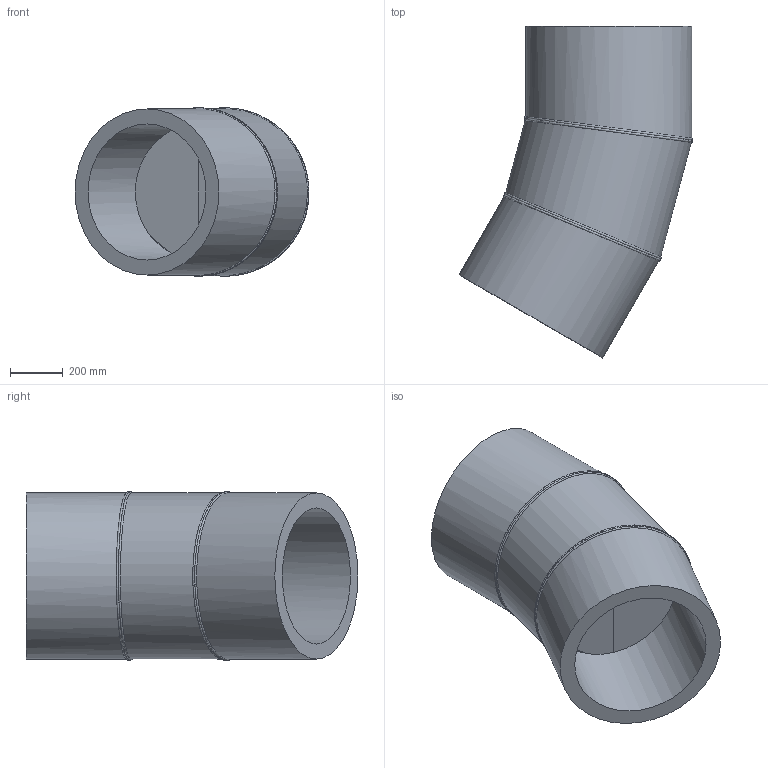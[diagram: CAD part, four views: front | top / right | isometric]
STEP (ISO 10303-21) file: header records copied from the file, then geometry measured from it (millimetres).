
FILE_DESCRIPTION(/* description */ ('Unknown'),/* implementation_level */ '2;1');
FILE_NAME(/* name */ 'Curva 30° a settore DE630 SDR11',/* time_stamp */ '2022-07-26T08:59:07+02:00',/* author */ ('Unknown'),/* organization */ ('Unknown'),/* preprocessor_version */ 'ST-DEVELOPER v18.102',/* originating_system */ 'Solid Edge',/* authorisation */ 'Unknown');
FILE_SCHEMA (('AUTOMOTIVE_DESIGN {1 0 10303 214 3 1 1}'));
Length unit declared in the file: millimetre
Products named in the file (3): Curva 30° a settore DE630 SDR11; Tubo x Gomito 30° DE630 SDR11 - 1; Tubo x Gomito 30° DE630 SDR11 - 2
Assembly tree (3 placements, depth 2):
  Curva 30° a settore DE630 SDR11
    Tubo x Gomito 30° DE630 SDR11 - 1  x2
    Tubo x Gomito 30° DE630 SDR11 - 2
Bounding box: 886.64 x 1257.89 x 637.99 mm (x, y, z)
Volume: 120207343.7 mm3; surface area: 4854283.3 mm2
Topology: 3 solids, 3 shells, 24 faces, 51 edges, 33 vertices
Faces by surface type: cylinder 14, plane 6, bspline 4
Full cylindrical faces by diameter (mm): 515.6 x3, 630 x3
Entity records: 3414 total; most frequent: CARTESIAN_POINT 3019, DIRECTION 70, ORIENTED_EDGE 52, AXIS2_PLACEMENT_3D 35, EDGE_LOOP 28, FACE_BOUND 28, EDGE_CURVE 26, VERTEX_POINT 20
